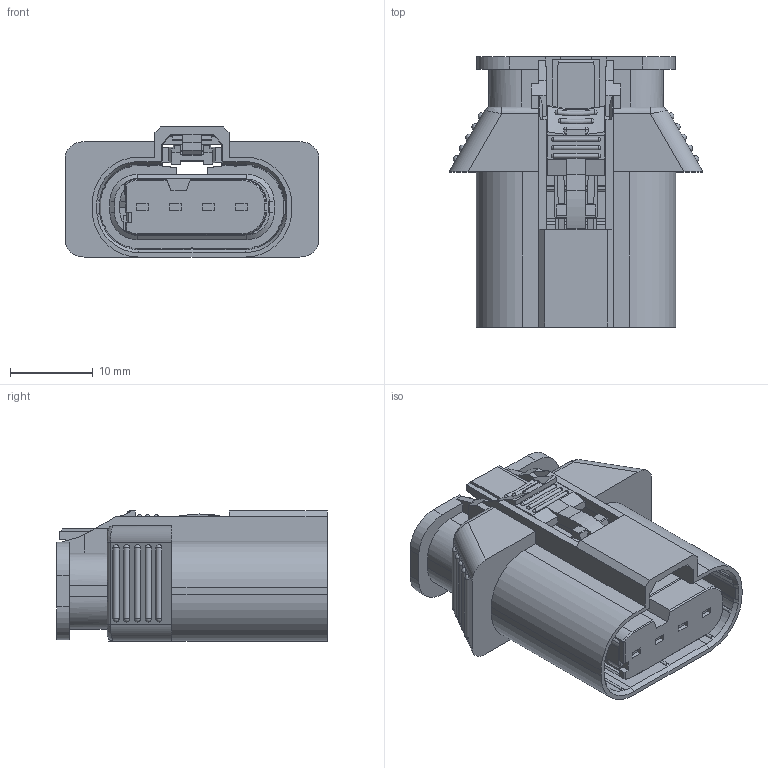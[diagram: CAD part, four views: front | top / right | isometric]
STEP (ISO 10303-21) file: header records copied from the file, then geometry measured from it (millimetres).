
FILE_DESCRIPTION(/* description */ (''),/* implementation_level */ '2;1');
FILE_NAME(/* name */ '35530269-STEP-3D.stp',/* time_stamp */ '2022-08-06T14:47:20+05:00',/* author */ (''),/* organization */ (''),/* preprocessor_version */ 'ST-DEVELOPER v16',/* originating_system */ 'SIEMENS PLM Software NX 11.0',/* authorisation */ '');
FILE_SCHEMA (('AUTOMOTIVE_DESIGN { 1 0 10303 214 3 1 1 1 }'));
Length unit declared in the file: millimetre
Products named in the file (1): cjzt9130C59D6der
Bounding box: 30.74 x 32.75 x 15.75 mm (x, y, z)
Volume: 6851 mm3; surface area: 6156.2 mm2
Topology: 1 solids, 1 shells, 597 faces, 1681 edges, 1071 vertices
Faces by surface type: plane 375, cylinder 116, cone 43, sphere 32, bspline 28, torus 3
Full cylindrical faces by diameter (mm): 3.55 x4
Entity records: 19728 total; most frequent: CARTESIAN_POINT 4775, ORIENTED_EDGE 3234, DIRECTION 2934, EDGE_CURVE 1617, LINE 1136, VECTOR 1136, VERTEX_POINT 1043, AXIS2_PLACEMENT_3D 899
